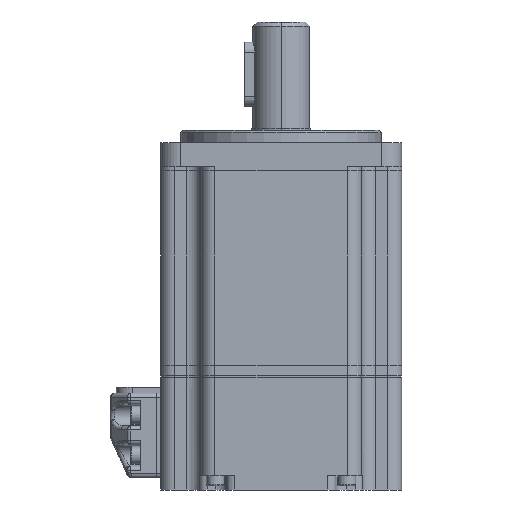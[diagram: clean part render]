
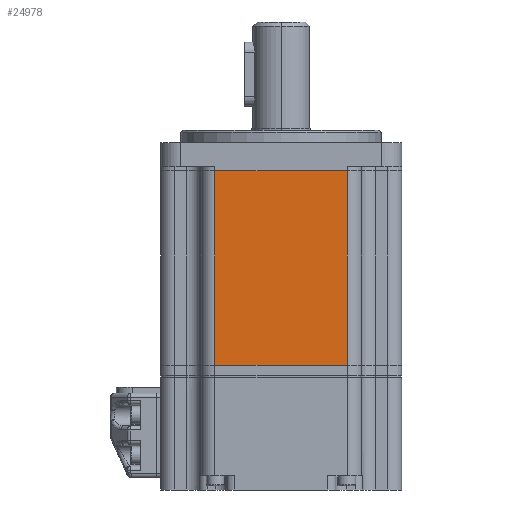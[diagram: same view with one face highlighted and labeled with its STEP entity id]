
A CAD part, front view. The second image highlights one B-rep face of the part: STEP entity #24978.
In plain terms, the highlighted planar face has unit normal (0, -1, 0).
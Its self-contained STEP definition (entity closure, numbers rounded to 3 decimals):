
#575 = ORIENTED_EDGE ( 'NONE', *, *, #10732, .T. ) ;
#2197 = VERTEX_POINT ( 'NONE', #26794 ) ;
#2309 = VECTOR ( 'NONE', #32930, 1000. ) ;
#2611 = CARTESIAN_POINT ( 'NONE',  ( -16.5, -30., -1. ) ) ;
#4988 = VECTOR ( 'NONE', #35746, 1000. ) ;
#6186 = EDGE_CURVE ( 'NONE', #13752, #2197, #6282, .T. ) ;
#6282 = LINE ( 'NONE', #42336, #31260 ) ;
#7870 = VERTEX_POINT ( 'NONE', #2611 ) ;
#8137 = CARTESIAN_POINT ( 'NONE',  ( 16.5, -30., -49.5 ) ) ;
#8394 = CARTESIAN_POINT ( 'NONE',  ( 16.5, -30., -49.5 ) ) ;
#9252 = ORIENTED_EDGE ( 'NONE', *, *, #37394, .T. ) ;
#10073 = ORIENTED_EDGE ( 'NONE', *, *, #6186, .F. ) ;
#10303 = PLANE ( 'NONE',  #17932 ) ;
#10732 = EDGE_CURVE ( 'NONE', #7870, #2197, #20420, .T. ) ;
#11953 = VERTEX_POINT ( 'NONE', #21255 ) ;
#12851 = LINE ( 'NONE', #8394, #38819 ) ;
#13752 = VERTEX_POINT ( 'NONE', #8137 ) ;
#14080 = LINE ( 'NONE', #15442, #4988 ) ;
#15306 = ORIENTED_EDGE ( 'NONE', *, *, #42313, .T. ) ;
#15442 = CARTESIAN_POINT ( 'NONE',  ( 20., -30., -1. ) ) ;
#17193 = DIRECTION ( 'NONE',  ( 0., 0., 1. ) ) ;
#17932 = AXIS2_PLACEMENT_3D ( 'NONE', #34082, #37486, #17193 ) ;
#20420 = LINE ( 'NONE', #26140, #2309 ) ;
#21255 = CARTESIAN_POINT ( 'NONE',  ( 16.5, -30., -1. ) ) ;
#24978 = ADVANCED_FACE ( 'NONE', ( #42185 ), #10303, .F. ) ;
#26140 = CARTESIAN_POINT ( 'NONE',  ( -16.5, -30., -49.5 ) ) ;
#26794 = CARTESIAN_POINT ( 'NONE',  ( -16.5, -30., -49.5 ) ) ;
#28698 = DIRECTION ( 'NONE',  ( -1., 0., 0. ) ) ;
#28773 = DIRECTION ( 'NONE',  ( 0., 0., 1. ) ) ;
#31260 = VECTOR ( 'NONE', #28698, 1000. ) ;
#32930 = DIRECTION ( 'NONE',  ( 0., 0., -1. ) ) ;
#34082 = CARTESIAN_POINT ( 'NONE',  ( 20., -30., -49.5 ) ) ;
#35746 = DIRECTION ( 'NONE',  ( -1., 0., 0. ) ) ;
#37394 = EDGE_CURVE ( 'NONE', #13752, #11953, #12851, .T. ) ;
#37486 = DIRECTION ( 'NONE',  ( 0., 1., 0. ) ) ;
#37980 = EDGE_LOOP ( 'NONE', ( #10073, #9252, #15306, #575 ) ) ;
#38819 = VECTOR ( 'NONE', #28773, 1000. ) ;
#42185 = FACE_OUTER_BOUND ( 'NONE', #37980, .T. ) ;
#42313 = EDGE_CURVE ( 'NONE', #11953, #7870, #14080, .T. ) ;
#42336 = CARTESIAN_POINT ( 'NONE',  ( 20., -30., -49.5 ) ) ;
